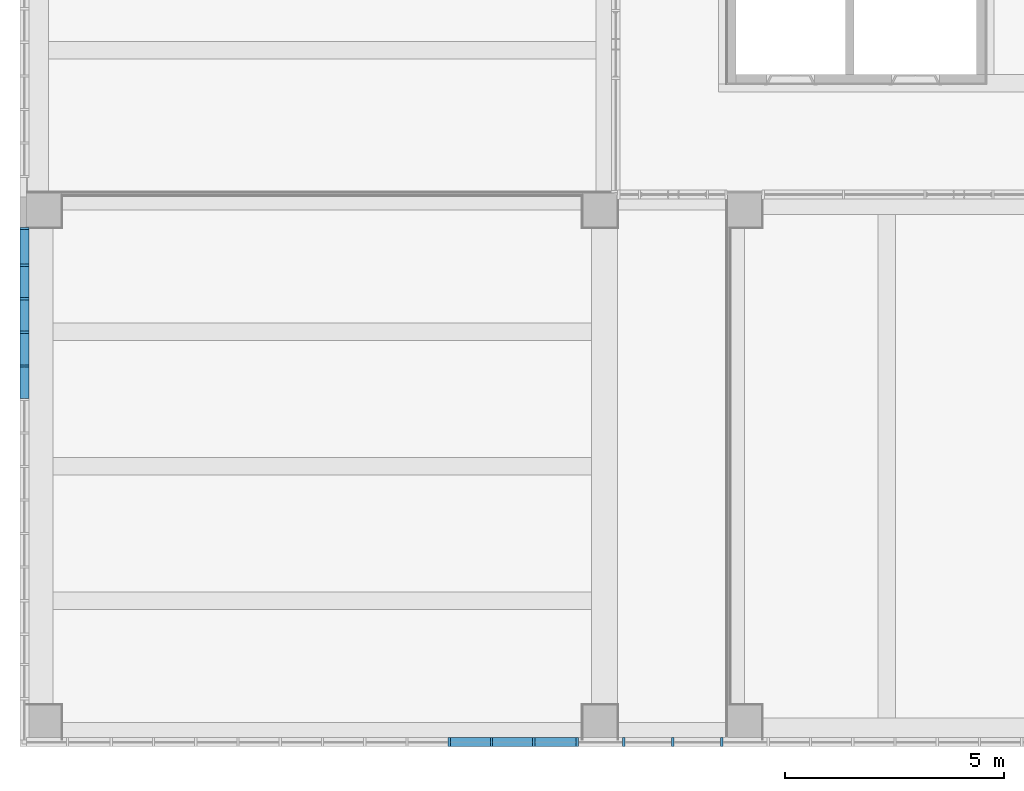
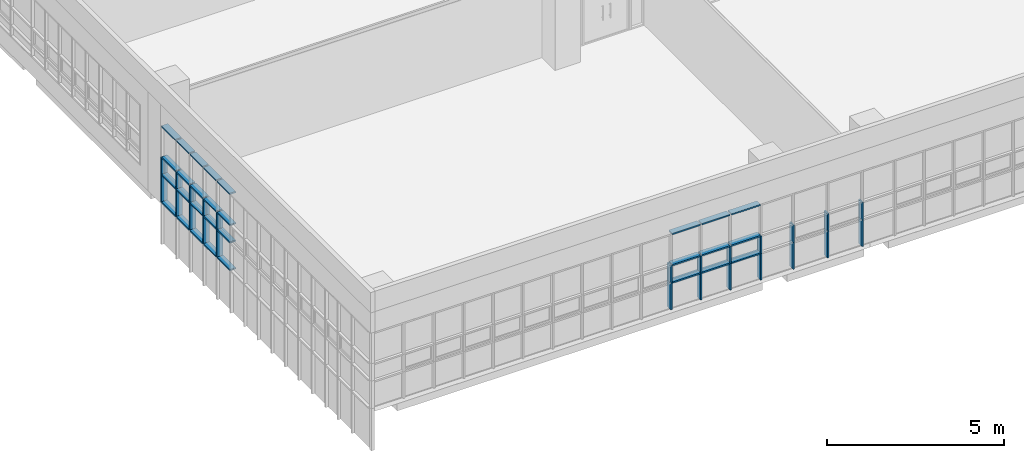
# One storey, part 12 of 81: 53 members, 2 elements without a shape of their own.
"""IFC2X3 building model written with IfcOpenShell, lengths in millimetres."""

from ifc_helpers import new_model, entity, si_unit, converted_unit, derived_unit, direction, frame, origin, origin_2d_with_axis, place, context, subcontext, project, spatial, rectangle, extrude, source, transform, mapped, material, type_object, type_shapes, element, aggregate, save


model = new_model("IFC2X3")

# Units and contexts
model_context = context("Model", 3, precision=0.01, world=origin(), true_north=direction((6.123031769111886e-17, 1.0)))
body_context = subcontext(model_context, "Body", "Model", "MODEL_VIEW")
ifc_project = project(units=[si_unit("LENGTHUNIT", "METRE", prefix="MILLI"), si_unit("AREAUNIT", "SQUARE_METRE"), si_unit("VOLUMEUNIT", "CUBIC_METRE"), converted_unit("PLANEANGLEUNIT", "DEGREE", entity("IfcRatioMeasure", 0.017453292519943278), si_unit("PLANEANGLEUNIT", "RADIAN"), dimensions=[0, 0, 0, 0, 0, 0, 0]), si_unit("MASSUNIT", "GRAM", prefix="KILO"), derived_unit("MASSDENSITYUNIT", [(si_unit("MASSUNIT", "GRAM", prefix="KILO"), 1), (si_unit("LENGTHUNIT", "METRE"), -3)]), derived_unit("MOMENTOFINERTIAUNIT", [(si_unit("LENGTHUNIT", "METRE"), 4)]), si_unit("TIMEUNIT", "SECOND"), si_unit("FREQUENCYUNIT", "HERTZ"), si_unit("THERMODYNAMICTEMPERATUREUNIT", "DEGREE_CELSIUS"), derived_unit("THERMALTRANSMITTANCEUNIT", [(si_unit("MASSUNIT", "GRAM", prefix="KILO"), 1), (si_unit("THERMODYNAMICTEMPERATUREUNIT", "KELVIN"), -1), (si_unit("TIMEUNIT", "SECOND"), -3)]), derived_unit("VOLUMETRICFLOWRATEUNIT", [(si_unit("LENGTHUNIT", "METRE"), 3), (si_unit("TIMEUNIT", "SECOND"), -1)]), derived_unit("MASSFLOWRATEUNIT", [(si_unit("MASSUNIT", "GRAM", prefix="KILO"), 1), (si_unit("TIMEUNIT", "SECOND"), -1)]), derived_unit("ROTATIONALFREQUENCYUNIT", [(si_unit("TIMEUNIT", "SECOND"), -1)]), si_unit("ELECTRICCURRENTUNIT", "AMPERE"), si_unit("ELECTRICVOLTAGEUNIT", "VOLT"), si_unit("POWERUNIT", "WATT"), si_unit("FORCEUNIT", "NEWTON", prefix="KILO"), si_unit("ILLUMINANCEUNIT", "LUX"), si_unit("LUMINOUSFLUXUNIT", "LUMEN"), si_unit("LUMINOUSINTENSITYUNIT", "CANDELA"), derived_unit("USERDEFINED", [(si_unit("MASSUNIT", "GRAM", prefix="KILO"), -1), (si_unit("LENGTHUNIT", "METRE"), -2), (si_unit("TIMEUNIT", "SECOND"), 3), (si_unit("LUMINOUSFLUXUNIT", "LUMEN"), 1)]), derived_unit("SOUNDPOWERUNIT", [(si_unit("MASSUNIT", "GRAM", prefix="KILO"), 1), (si_unit("LENGTHUNIT", "METRE"), 2), (si_unit("TIMEUNIT", "SECOND"), -3)]), derived_unit("SOUNDPRESSUREUNIT", [(si_unit("MASSUNIT", "GRAM", prefix="KILO"), 1), (si_unit("LENGTHUNIT", "METRE"), -1), (si_unit("TIMEUNIT", "SECOND"), -2)]), derived_unit("LINEARVELOCITYUNIT", [(si_unit("LENGTHUNIT", "METRE"), 1), (si_unit("TIMEUNIT", "SECOND"), -1)]), si_unit("PRESSUREUNIT", "PASCAL"), derived_unit("USERDEFINED", [(si_unit("LENGTHUNIT", "METRE"), -2), (si_unit("MASSUNIT", "GRAM", prefix="KILO"), 1), (si_unit("TIMEUNIT", "SECOND"), -2)]), derived_unit("LINEARFORCEUNIT", [(si_unit("MASSUNIT", "GRAM", prefix="KILO"), 1), (si_unit("LENGTHUNIT", "METRE"), 1), (si_unit("TIMEUNIT", "SECOND"), -2), (si_unit("LENGTHUNIT", "METRE"), -1)]), derived_unit("PLANARFORCEUNIT", [(si_unit("MASSUNIT", "GRAM", prefix="KILO"), 1), (si_unit("LENGTHUNIT", "METRE"), 1), (si_unit("TIMEUNIT", "SECOND"), -2), (si_unit("LENGTHUNIT", "METRE"), -2)])], contexts=[model_context])

# Site, building, storey
site_placement = place(None, frame((-14167.972527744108, -657.2125860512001, 0.0)))
site = spatial("IfcSite", under=ifc_project, at=site_placement, Name="Default", CompositionType="ELEMENT")
building_placement = place(site_placement, origin())
building = spatial("IfcBuilding", under=site, at=building_placement, Name="Sample Building", CompositionType="ELEMENT")
storey_placement = place(building_placement, frame((0.0, 0.0, 13400.0)))
storey = spatial("IfcBuildingStorey", under=building, at=storey_placement, Name="지상 4층", CompositionType="ELEMENT", Elevation=13400.00000000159)

# Curtain wall, members
curtain_wall_type = type_object("IfcCurtainWallType", Name="커튼월:CW112-스테인리스 스틸 커튼월", PredefinedType="NOTDEFINED")
curtain_wall_1_placement = place(storey_placement, frame((0.0, 0.0, -13400.0)))
curtain_wall_1 = element("IfcCurtainWall", 1, at=curtain_wall_1_placement, inside=storey, type_object=curtain_wall_type, Name="커튼월:CW112-스테인리스 스틸 커튼월", ObjectType="커튼월:CW112-스테인리스 스틸 커튼월")
ifc_material = material(Name="<Unnamed>")
member_type_1 = type_object("IfcMemberType", Name="직사각형 멀리언:CW200-직사각형 멀리언 50x200mm", PredefinedType="MULLION", material=ifc_material)
shared_shape_1 = source(origin(), body_context, "Body", "SweptSolid", [
    extrude(rectangle(XDim=200.0, YDim=50.0, at=origin_2d_with_axis()), frame((-25.0, 0.0, -600.0), z_axis=(0.0, 0.0, 1.0), x_axis=(0.0, -1.0, 0.0)), (0.0, 0.0, 1.0), 600.0),
])
type_shapes(member_type_1, [shared_shape_1])
member_1_placement = place(curtain_wall_1_placement, frame((14017.955105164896, 12257.21258605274, 15000.0), z_axis=(0.0, 0.0, 1.0), x_axis=(0.0, 1.0, 0.0)))
member_1 = element("IfcMember", 2, at=member_1_placement, type_object=member_type_1, material=ifc_material, Name="직사각형 멀리언:CW200-직사각형 멀리언 50x200mm", ObjectType="직사각형 멀리언:CW200-직사각형 멀리언 50x200mm", context=body_context, shape_type="MappedRepresentation", body=[
    mapped(shared_shape_1, transform((0.0, 0.0, 0.0), scale=1.0)),
])
member_type_2 = type_object("IfcMemberType", Name="직사각형 멀리언:CW200-직사각형 멀리언 50x200mm", PredefinedType="MULLION", material=ifc_material)
shared_shape_2 = source(origin(), body_context, "Body", "SweptSolid", [
    extrude(rectangle(XDim=200.0, YDim=50.0, at=origin_2d_with_axis()), frame((0.0, 0.0, -600.0), z_axis=(0.0, 0.0, 1.0), x_axis=(0.0, -1.0, 0.0)), (0.0, 0.0, 1.0), 600.0),
])
type_shapes(member_type_2, [shared_shape_2])
member_2_placement = place(curtain_wall_1_placement, frame((14017.95510516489, 9097.817707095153, 14400.0), z_axis=(0.0, 0.0, -1.0), x_axis=(0.0, -1.0, 0.0)))
member_2 = element("IfcMember", 3, at=member_2_placement, type_object=member_type_2, material=ifc_material, Name="직사각형 멀리언:CW200-직사각형 멀리언 50x200mm", ObjectType="직사각형 멀리언:CW200-직사각형 멀리언 50x200mm", context=body_context, shape_type="MappedRepresentation", body=[
    mapped(shared_shape_2, transform((0.0, 0.0, 0.0), scale=1.0)),
])
member_3_placement = place(curtain_wall_1_placement, frame((14017.955105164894, 9863.817707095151, 14400.0), z_axis=(0.0, 0.0, -1.0), x_axis=(0.0, -1.0, 0.0)))
member_3 = element("IfcMember", 4, at=member_3_placement, type_object=member_type_2, material=ifc_material, Name="직사각형 멀리언:CW200-직사각형 멀리언 50x200mm", ObjectType="직사각형 멀리언:CW200-직사각형 멀리언 50x200mm", context=body_context, shape_type="MappedRepresentation", body=[
    mapped(shared_shape_2, transform((0.0, 0.0, 0.0), scale=1.0)),
])
member_4_placement = place(curtain_wall_1_placement, frame((14017.955105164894, 10629.817707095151, 14400.0), z_axis=(0.0, 0.0, -1.0), x_axis=(0.0, -1.0, 0.0)))
member_4 = element("IfcMember", 5, at=member_4_placement, type_object=member_type_2, material=ifc_material, Name="직사각형 멀리언:CW200-직사각형 멀리언 50x200mm", ObjectType="직사각형 멀리언:CW200-직사각형 멀리언 50x200mm", context=body_context, shape_type="MappedRepresentation", body=[
    mapped(shared_shape_2, transform((0.0, 0.0, 0.0), scale=1.0)),
])
member_5_placement = place(curtain_wall_1_placement, frame((14017.955105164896, 11395.81770709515, 14400.0), z_axis=(0.0, 0.0, -1.0), x_axis=(0.0, -1.0, 0.0)))
member_5 = element("IfcMember", 6, at=member_5_placement, type_object=member_type_2, material=ifc_material, Name="직사각형 멀리언:CW200-직사각형 멀리언 50x200mm", ObjectType="직사각형 멀리언:CW200-직사각형 멀리언 50x200mm", context=body_context, shape_type="MappedRepresentation", body=[
    mapped(shared_shape_2, transform((0.0, 0.0, 0.0), scale=1.0)),
])

curtain_wall_2_placement = place(storey_placement, frame((0.0, 0.0, -13400.0)))
curtain_wall_2 = element("IfcCurtainWall", 7, at=curtain_wall_2_placement, inside=storey, type_object=curtain_wall_type, Name="커튼월:CW112-스테인리스 스틸 커튼월", ObjectType="커튼월:CW112-스테인리스 스틸 커튼월")
member_6_placement = place(curtain_wall_2_placement, frame((23720.156070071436, 507.21229514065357, 14400.0), z_axis=(0.0, 0.0, -1.0), x_axis=(1.0, 0.0, 0.0)))
member_6 = element("IfcMember", 8, at=member_6_placement, type_object=member_type_2, material=ifc_material, Name="직사각형 멀리언:CW200-직사각형 멀리언 50x200mm", ObjectType="직사각형 멀리언:CW200-직사각형 멀리언 50x200mm", context=body_context, shape_type="MappedRepresentation", body=[
    mapped(shared_shape_2, transform((0.0, 0.0, 0.0), scale=1.0)),
])
member_7_placement = place(curtain_wall_2_placement, frame((24685.15607007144, 507.2122951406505, 14400.0), z_axis=(0.0, 0.0, -1.0), x_axis=(1.0, 0.0, 0.0)))
member_7 = element("IfcMember", 9, at=member_7_placement, type_object=member_type_2, material=ifc_material, Name="직사각형 멀리언:CW200-직사각형 멀리언 50x200mm", ObjectType="직사각형 멀리언:CW200-직사각형 멀리언 50x200mm", context=body_context, shape_type="MappedRepresentation", body=[
    mapped(shared_shape_2, transform((0.0, 0.0, 0.0), scale=1.0)),
])
member_8_placement = place(curtain_wall_2_placement, frame((25650.15607007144, 507.21229514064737, 14400.0), z_axis=(0.0, 0.0, -1.0), x_axis=(1.0, 0.0, 0.0)))
member_8 = element("IfcMember", 10, at=member_8_placement, type_object=member_type_2, material=ifc_material, Name="직사각형 멀리언:CW200-직사각형 멀리언 50x200mm", ObjectType="직사각형 멀리언:CW200-직사각형 멀리언 50x200mm", context=body_context, shape_type="MappedRepresentation", body=[
    mapped(shared_shape_2, transform((0.0, 0.0, 0.0), scale=1.0)),
])
member_9_placement = place(curtain_wall_2_placement, frame((26645.156070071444, 507.2122951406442, 14400.0), z_axis=(0.0, 0.0, -1.0), x_axis=(1.0, 0.0, 0.0)))
member_9 = element("IfcMember", 11, at=member_9_placement, type_object=member_type_2, material=ifc_material, Name="직사각형 멀리언:CW200-직사각형 멀리언 50x200mm", ObjectType="직사각형 멀리언:CW200-직사각형 멀리언 50x200mm", context=body_context, shape_type="MappedRepresentation", body=[
    mapped(shared_shape_2, transform((0.0, 0.0, 0.0), scale=1.0)),
])
member_10_placement = place(curtain_wall_2_placement, frame((27705.15607007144, 507.2122951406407, 14400.0), z_axis=(0.0, 0.0, -1.0), x_axis=(1.0, 0.0, 0.0)))
member_10 = element("IfcMember", 12, at=member_10_placement, type_object=member_type_2, material=ifc_material, Name="직사각형 멀리언:CW200-직사각형 멀리언 50x200mm", ObjectType="직사각형 멀리언:CW200-직사각형 멀리언 50x200mm", context=body_context, shape_type="MappedRepresentation", body=[
    mapped(shared_shape_2, transform((0.0, 0.0, 0.0), scale=1.0)),
])
member_11_placement = place(curtain_wall_2_placement, frame((28825.156070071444, 507.21229514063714, 14400.0), z_axis=(0.0, 0.0, -1.0), x_axis=(1.0, 0.0, 0.0)))
member_11 = element("IfcMember", 13, at=member_11_placement, type_object=member_type_2, material=ifc_material, Name="직사각형 멀리언:CW200-직사각형 멀리언 50x200mm", ObjectType="직사각형 멀리언:CW200-직사각형 멀리언 50x200mm", context=body_context, shape_type="MappedRepresentation", body=[
    mapped(shared_shape_2, transform((0.0, 0.0, 0.0), scale=1.0)),
])
member_12_placement = place(curtain_wall_2_placement, frame((29945.156070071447, 507.2122951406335, 14400.0), z_axis=(0.0, 0.0, -1.0), x_axis=(1.0, 0.0, 0.0)))
member_12 = element("IfcMember", 14, at=member_12_placement, type_object=member_type_2, material=ifc_material, Name="직사각형 멀리언:CW200-직사각형 멀리언 50x200mm", ObjectType="직사각형 멀리언:CW200-직사각형 멀리언 50x200mm", context=body_context, shape_type="MappedRepresentation", body=[
    mapped(shared_shape_2, transform((0.0, 0.0, 0.0), scale=1.0)),
])

# Member
member_type_3 = type_object("IfcMemberType", Name="직사각형 멀리언:CW200-직사각형 멀리언 50x200mm", PredefinedType="MULLION", material=ifc_material)
shared_shape_3 = source(origin(), body_context, "Body", "SweptSolid", [
    extrude(rectangle(XDim=200.0, YDim=50.0, at=origin_2d_with_axis()), frame((0.0, 0.0, -716.0), z_axis=(0.0, 0.0, 1.0), x_axis=(0.0, -1.0, 0.0)), (0.0, 0.0, 1.0), 715.9999999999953),
])
type_shapes(member_type_3, [shared_shape_3])
member_13_placement = place(curtain_wall_1_placement, frame((14017.955105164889, 8356.817707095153, 13450.0), z_axis=(0.0, -1.0, 0.0), x_axis=(0.0, 0.0, 1.0)))
member_13 = element("IfcMember", 15, at=member_13_placement, type_object=member_type_3, material=ifc_material, Name="직사각형 멀리언:CW200-직사각형 멀리언 50x200mm", ObjectType="직사각형 멀리언:CW200-직사각형 멀리언 50x200mm", context=body_context, shape_type="MappedRepresentation", body=[
    mapped(shared_shape_3, transform((0.0, 0.0, 0.0), scale=1.0)),
])

member_14_placement = place(curtain_wall_1_placement, frame((14017.955105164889, 8356.817707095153, 14400.0), z_axis=(0.0, -1.0, 0.0), x_axis=(0.0, 0.0, 1.0)))
member_14 = element("IfcMember", 16, at=member_14_placement, type_object=member_type_3, material=ifc_material, Name="직사각형 멀리언:CW200-직사각형 멀리언 50x200mm", ObjectType="직사각형 멀리언:CW200-직사각형 멀리언 50x200mm", context=body_context, shape_type="MappedRepresentation", body=[
    mapped(shared_shape_3, transform((0.0, 0.0, 0.0), scale=1.0)),
])

member_15_placement = place(curtain_wall_1_placement, frame((14017.955105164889, 8356.817707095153, 15000.0), z_axis=(0.0, -1.0, 0.0), x_axis=(0.0, 0.0, 1.0)))
member_15 = element("IfcMember", 17, at=member_15_placement, type_object=member_type_3, material=ifc_material, Name="직사각형 멀리언:CW200-직사각형 멀리언 50x200mm", ObjectType="직사각형 멀리언:CW200-직사각형 멀리언 50x200mm", context=body_context, shape_type="MappedRepresentation", body=[
    mapped(shared_shape_3, transform((0.0, 0.0, 0.0), scale=1.0)),
])

member_16_placement = place(curtain_wall_1_placement, frame((14017.95510516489, 9122.817707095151, 13450.0), z_axis=(0.0, -1.0, 0.0), x_axis=(0.0, 0.0, 1.0)))
member_16 = element("IfcMember", 18, at=member_16_placement, type_object=member_type_3, material=ifc_material, Name="직사각형 멀리언:CW200-직사각형 멀리언 50x200mm", ObjectType="직사각형 멀리언:CW200-직사각형 멀리언 50x200mm", context=body_context, shape_type="MappedRepresentation", body=[
    mapped(shared_shape_3, transform((0.0, 0.0, 0.0), scale=1.0)),
])

member_17_placement = place(curtain_wall_1_placement, frame((14017.95510516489, 9122.817707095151, 14400.0), z_axis=(0.0, -1.0, 0.0), x_axis=(0.0, 0.0, 1.0)))
member_17 = element("IfcMember", 19, at=member_17_placement, type_object=member_type_3, material=ifc_material, Name="직사각형 멀리언:CW200-직사각형 멀리언 50x200mm", ObjectType="직사각형 멀리언:CW200-직사각형 멀리언 50x200mm", context=body_context, shape_type="MappedRepresentation", body=[
    mapped(shared_shape_3, transform((0.0, 0.0, 0.0), scale=1.0)),
])

member_18_placement = place(curtain_wall_1_placement, frame((14017.95510516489, 9122.817707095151, 15000.0), z_axis=(0.0, -1.0, 0.0), x_axis=(0.0, 0.0, 1.0)))
member_18 = element("IfcMember", 20, at=member_18_placement, type_object=member_type_3, material=ifc_material, Name="직사각형 멀리언:CW200-직사각형 멀리언 50x200mm", ObjectType="직사각형 멀리언:CW200-직사각형 멀리언 50x200mm", context=body_context, shape_type="MappedRepresentation", body=[
    mapped(shared_shape_3, transform((0.0, 0.0, 0.0), scale=1.0)),
])

member_19_placement = place(curtain_wall_1_placement, frame((14017.955105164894, 9888.817707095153, 13450.0), z_axis=(0.0, -1.0, 0.0), x_axis=(0.0, 0.0, 1.0)))
member_19 = element("IfcMember", 21, at=member_19_placement, type_object=member_type_3, material=ifc_material, Name="직사각형 멀리언:CW200-직사각형 멀리언 50x200mm", ObjectType="직사각형 멀리언:CW200-직사각형 멀리언 50x200mm", context=body_context, shape_type="MappedRepresentation", body=[
    mapped(shared_shape_3, transform((0.0, 0.0, 0.0), scale=1.0)),
])

member_20_placement = place(curtain_wall_1_placement, frame((14017.955105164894, 9888.817707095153, 14400.0), z_axis=(0.0, -1.0, 0.0), x_axis=(0.0, 0.0, 1.0)))
member_20 = element("IfcMember", 22, at=member_20_placement, type_object=member_type_3, material=ifc_material, Name="직사각형 멀리언:CW200-직사각형 멀리언 50x200mm", ObjectType="직사각형 멀리언:CW200-직사각형 멀리언 50x200mm", context=body_context, shape_type="MappedRepresentation", body=[
    mapped(shared_shape_3, transform((0.0, 0.0, 0.0), scale=1.0)),
])

member_21_placement = place(curtain_wall_1_placement, frame((14017.955105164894, 9888.817707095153, 15000.0), z_axis=(0.0, -1.0, 0.0), x_axis=(0.0, 0.0, 1.0)))
member_21 = element("IfcMember", 23, at=member_21_placement, type_object=member_type_3, material=ifc_material, Name="직사각형 멀리언:CW200-직사각형 멀리언 50x200mm", ObjectType="직사각형 멀리언:CW200-직사각형 멀리언 50x200mm", context=body_context, shape_type="MappedRepresentation", body=[
    mapped(shared_shape_3, transform((0.0, 0.0, 0.0), scale=1.0)),
])

member_22_placement = place(curtain_wall_1_placement, frame((14017.955105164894, 10654.817707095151, 13450.0), z_axis=(0.0, -1.0, 0.0), x_axis=(0.0, 0.0, 1.0)))
member_22 = element("IfcMember", 24, at=member_22_placement, type_object=member_type_3, material=ifc_material, Name="직사각형 멀리언:CW200-직사각형 멀리언 50x200mm", ObjectType="직사각형 멀리언:CW200-직사각형 멀리언 50x200mm", context=body_context, shape_type="MappedRepresentation", body=[
    mapped(shared_shape_3, transform((0.0, 0.0, 0.0), scale=1.0)),
])

member_23_placement = place(curtain_wall_1_placement, frame((14017.955105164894, 10654.817707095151, 14400.0), z_axis=(0.0, -1.0, 0.0), x_axis=(0.0, 0.0, 1.0)))
member_23 = element("IfcMember", 25, at=member_23_placement, type_object=member_type_3, material=ifc_material, Name="직사각형 멀리언:CW200-직사각형 멀리언 50x200mm", ObjectType="직사각형 멀리언:CW200-직사각형 멀리언 50x200mm", context=body_context, shape_type="MappedRepresentation", body=[
    mapped(shared_shape_3, transform((0.0, 0.0, 0.0), scale=1.0)),
])

member_24_placement = place(curtain_wall_1_placement, frame((14017.955105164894, 10654.817707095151, 15000.0), z_axis=(0.0, -1.0, 0.0), x_axis=(0.0, 0.0, 1.0)))
member_24 = element("IfcMember", 26, at=member_24_placement, type_object=member_type_3, material=ifc_material, Name="직사각형 멀리언:CW200-직사각형 멀리언 50x200mm", ObjectType="직사각형 멀리언:CW200-직사각형 멀리언 50x200mm", context=body_context, shape_type="MappedRepresentation", body=[
    mapped(shared_shape_3, transform((0.0, 0.0, 0.0), scale=1.0)),
])

member_type_4 = type_object("IfcMemberType", Name="직사각형 멀리언:CW200-직사각형 멀리언 50x200mm", PredefinedType="MULLION", material=ifc_material)
shared_shape_4 = source(origin(), body_context, "Body", "SweptSolid", [
    extrude(rectangle(XDim=200.0, YDim=50.0, at=origin_2d_with_axis()), frame((-25.0, 0.0, -716.0), z_axis=(0.0, 0.0, 1.0), x_axis=(0.0, -1.0, 0.0)), (0.0, 0.0, 1.0), 715.9999999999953),
])
type_shapes(member_type_4, [shared_shape_4])
member_25_placement = place(curtain_wall_1_placement, frame((14017.955105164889, 8356.817707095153, 16100.0), z_axis=(0.0, -1.0, 0.0), x_axis=(0.0, 0.0, 1.0)))
member_25 = element("IfcMember", 27, at=member_25_placement, type_object=member_type_4, material=ifc_material, Name="직사각형 멀리언:CW200-직사각형 멀리언 50x200mm", ObjectType="직사각형 멀리언:CW200-직사각형 멀리언 50x200mm", context=body_context, shape_type="MappedRepresentation", body=[
    mapped(shared_shape_4, transform((0.0, 0.0, 0.0), scale=1.0)),
])

member_26_placement = place(curtain_wall_1_placement, frame((14017.95510516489, 9122.817707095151, 16100.0), z_axis=(0.0, -1.0, 0.0), x_axis=(0.0, 0.0, 1.0)))
member_26 = element("IfcMember", 28, at=member_26_placement, type_object=member_type_4, material=ifc_material, Name="직사각형 멀리언:CW200-직사각형 멀리언 50x200mm", ObjectType="직사각형 멀리언:CW200-직사각형 멀리언 50x200mm", context=body_context, shape_type="MappedRepresentation", body=[
    mapped(shared_shape_4, transform((0.0, 0.0, 0.0), scale=1.0)),
])

member_27_placement = place(curtain_wall_1_placement, frame((14017.955105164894, 9888.817707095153, 16100.0), z_axis=(0.0, -1.0, 0.0), x_axis=(0.0, 0.0, 1.0)))
member_27 = element("IfcMember", 29, at=member_27_placement, type_object=member_type_4, material=ifc_material, Name="직사각형 멀리언:CW200-직사각형 멀리언 50x200mm", ObjectType="직사각형 멀리언:CW200-직사각형 멀리언 50x200mm", context=body_context, shape_type="MappedRepresentation", body=[
    mapped(shared_shape_4, transform((0.0, 0.0, 0.0), scale=1.0)),
])

member_28_placement = place(curtain_wall_1_placement, frame((14017.955105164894, 10654.817707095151, 16100.0), z_axis=(0.0, -1.0, 0.0), x_axis=(0.0, 0.0, 1.0)))
member_28 = element("IfcMember", 30, at=member_28_placement, type_object=member_type_4, material=ifc_material, Name="직사각형 멀리언:CW200-직사각형 멀리언 50x200mm", ObjectType="직사각형 멀리언:CW200-직사각형 멀리언 50x200mm", context=body_context, shape_type="MappedRepresentation", body=[
    mapped(shared_shape_4, transform((0.0, 0.0, 0.0), scale=1.0)),
])

member_type_5 = type_object("IfcMemberType", Name="직사각형 멀리언:CW200-직사각형 멀리언 50x200mm", PredefinedType="MULLION", material=ifc_material)
shared_shape_5 = source(origin(), body_context, "Body", "SweptSolid", [
    extrude(rectangle(XDim=200.0, YDim=50.0, at=origin_2d_with_axis()), frame((-25.0, 0.0, -950.0), z_axis=(0.0, 0.0, 1.0), x_axis=(0.0, -1.0, 0.0)), (0.0, 0.0, 1.0), 949.9999999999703),
])
type_shapes(member_type_5, [shared_shape_5])
member_29_placement = place(curtain_wall_1_placement, frame((14017.955105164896, 12257.21258605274, 14400.0), z_axis=(0.0, 0.0, 1.0), x_axis=(0.0, 1.0, 0.0)))
member_29 = element("IfcMember", 31, at=member_29_placement, type_object=member_type_5, material=ifc_material, Name="직사각형 멀리언:CW200-직사각형 멀리언 50x200mm", ObjectType="직사각형 멀리언:CW200-직사각형 멀리언 50x200mm", context=body_context, shape_type="MappedRepresentation", body=[
    mapped(shared_shape_5, transform((0.0, 0.0, 0.0), scale=1.0)),
])

member_type_6 = type_object("IfcMemberType", Name="직사각형 멀리언:CW200-직사각형 멀리언 50x200mm", PredefinedType="MULLION", material=ifc_material)
shared_shape_6 = source(origin(), body_context, "Body", "SweptSolid", [
    extrude(rectangle(XDim=200.0, YDim=50.0, at=origin_2d_with_axis()), frame((0.0, 0.0, -786.3945880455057), z_axis=(0.0, 0.0, 1.0), x_axis=(0.0, -1.0, 0.0)), (0.0, 0.0, 1.0), 786.3945880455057),
])
type_shapes(member_type_6, [shared_shape_6])
member_30_placement = place(curtain_wall_1_placement, frame((14017.955105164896, 11420.817707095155, 15000.0), z_axis=(0.0, -1.0, 0.0), x_axis=(0.0, 0.0, 1.0)))
member_30 = element("IfcMember", 32, at=member_30_placement, type_object=member_type_6, material=ifc_material, Name="직사각형 멀리언:CW200-직사각형 멀리언 50x200mm", ObjectType="직사각형 멀리언:CW200-직사각형 멀리언 50x200mm", context=body_context, shape_type="MappedRepresentation", body=[
    mapped(shared_shape_6, transform((0.0, 0.0, 0.0), scale=1.0)),
])

member_31_placement = place(curtain_wall_1_placement, frame((14017.955105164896, 11420.817707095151, 14400.0), z_axis=(0.0, -1.0, 0.0), x_axis=(0.0, 0.0, 1.0)))
member_31 = element("IfcMember", 33, at=member_31_placement, type_object=member_type_6, material=ifc_material, Name="직사각형 멀리언:CW200-직사각형 멀리언 50x200mm", ObjectType="직사각형 멀리언:CW200-직사각형 멀리언 50x200mm", context=body_context, shape_type="MappedRepresentation", body=[
    mapped(shared_shape_6, transform((0.0, 0.0, 0.0), scale=1.0)),
])

member_32_placement = place(curtain_wall_1_placement, frame((14017.955105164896, 11420.817707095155, 13450.0), z_axis=(0.0, -1.0, 0.0), x_axis=(0.0, 0.0, 1.0)))
member_32 = element("IfcMember", 34, at=member_32_placement, type_object=member_type_6, material=ifc_material, Name="직사각형 멀리언:CW200-직사각형 멀리언 50x200mm", ObjectType="직사각형 멀리언:CW200-직사각형 멀리언 50x200mm", context=body_context, shape_type="MappedRepresentation", body=[
    mapped(shared_shape_6, transform((0.0, 0.0, 0.0), scale=1.0)),
])

member_type_7 = type_object("IfcMemberType", Name="직사각형 멀리언:CW200-직사각형 멀리언 50x200mm", PredefinedType="MULLION", material=ifc_material)
shared_shape_7 = source(origin(), body_context, "Body", "SweptSolid", [
    extrude(rectangle(XDim=200.0, YDim=50.0, at=origin_2d_with_axis()), frame((0.0, 0.0, -950.0), z_axis=(0.0, 0.0, 1.0), x_axis=(0.0, -1.0, 0.0)), (0.0, 0.0, 1.0), 949.9999999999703),
])
type_shapes(member_type_7, [shared_shape_7])
member_33_placement = place(curtain_wall_1_placement, frame((14017.95510516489, 9097.817707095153, 13450.0), z_axis=(0.0, 0.0, -1.0), x_axis=(0.0, -1.0, 0.0)))
member_33 = element("IfcMember", 35, at=member_33_placement, type_object=member_type_7, material=ifc_material, Name="직사각형 멀리언:CW200-직사각형 멀리언 50x200mm", ObjectType="직사각형 멀리언:CW200-직사각형 멀리언 50x200mm", context=body_context, shape_type="MappedRepresentation", body=[
    mapped(shared_shape_7, transform((0.0, 0.0, 0.0), scale=1.0)),
])

member_34_placement = place(curtain_wall_1_placement, frame((14017.955105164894, 9863.817707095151, 13450.0), z_axis=(0.0, 0.0, -1.0), x_axis=(0.0, -1.0, 0.0)))
member_34 = element("IfcMember", 36, at=member_34_placement, type_object=member_type_7, material=ifc_material, Name="직사각형 멀리언:CW200-직사각형 멀리언 50x200mm", ObjectType="직사각형 멀리언:CW200-직사각형 멀리언 50x200mm", context=body_context, shape_type="MappedRepresentation", body=[
    mapped(shared_shape_7, transform((0.0, 0.0, 0.0), scale=1.0)),
])

member_35_placement = place(curtain_wall_1_placement, frame((14017.955105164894, 10629.817707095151, 13450.0), z_axis=(0.0, 0.0, -1.0), x_axis=(0.0, -1.0, 0.0)))
member_35 = element("IfcMember", 37, at=member_35_placement, type_object=member_type_7, material=ifc_material, Name="직사각형 멀리언:CW200-직사각형 멀리언 50x200mm", ObjectType="직사각형 멀리언:CW200-직사각형 멀리언 50x200mm", context=body_context, shape_type="MappedRepresentation", body=[
    mapped(shared_shape_7, transform((0.0, 0.0, 0.0), scale=1.0)),
])

member_36_placement = place(curtain_wall_1_placement, frame((14017.955105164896, 11395.817707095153, 13450.0), z_axis=(0.0, 0.0, -1.0), x_axis=(0.0, -1.0, 0.0)))
member_36 = element("IfcMember", 38, at=member_36_placement, type_object=member_type_7, material=ifc_material, Name="직사각형 멀리언:CW200-직사각형 멀리언 50x200mm", ObjectType="직사각형 멀리언:CW200-직사각형 멀리언 50x200mm", context=body_context, shape_type="MappedRepresentation", body=[
    mapped(shared_shape_7, transform((0.0, 0.0, 0.0), scale=1.0)),
])

member_type_8 = type_object("IfcMemberType", Name="직사각형 멀리언:CW200-직사각형 멀리언 50x200mm", PredefinedType="MULLION", material=ifc_material)
shared_shape_8 = source(origin(), body_context, "Body", "SweptSolid", [
    extrude(rectangle(XDim=200.0, YDim=50.0, at=origin_2d_with_axis()), frame((-25.0, 0.0, -786.39458804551), z_axis=(0.0, 0.0, 1.0), x_axis=(0.0, -1.0, 0.0)), (0.0, 0.0, 1.0), 786.39458804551),
])
type_shapes(member_type_8, [shared_shape_8])
member_37_placement = place(curtain_wall_1_placement, frame((14017.955105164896, 11420.817707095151, 16100.0), z_axis=(0.0, -1.0, 0.0), x_axis=(0.0, 0.0, 1.0)))
member_37 = element("IfcMember", 39, at=member_37_placement, type_object=member_type_8, material=ifc_material, Name="직사각형 멀리언:CW200-직사각형 멀리언 50x200mm", ObjectType="직사각형 멀리언:CW200-직사각형 멀리언 50x200mm", context=body_context, shape_type="MappedRepresentation", body=[
    mapped(shared_shape_8, transform((0.0, 0.0, 0.0), scale=1.0)),
])

aggregate(curtain_wall_1, [member_1, member_29, member_30, member_31, member_32, member_25, member_26, member_13, member_14, member_15, member_33, member_2, member_27, member_16, member_17, member_18, member_34, member_3, member_28, member_19, member_20, member_21, member_35, member_4, member_37, member_22, member_23, member_24, member_36, member_5])

member_type_9 = type_object("IfcMemberType", Name="직사각형 멀리언:CW200-직사각형 멀리언 50x200mm", PredefinedType="MULLION", material=ifc_material)
shared_shape_9 = source(origin(), body_context, "Body", "SweptSolid", [
    extrude(rectangle(XDim=200.0, YDim=50.0, at=origin_2d_with_axis()), frame((0.0, 0.0, -945.0), z_axis=(0.0, 0.0, 1.0), x_axis=(0.0, -1.0, 0.0)), (0.0, 0.0, 1.0), 944.9999999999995),
])
type_shapes(member_type_9, [shared_shape_9])
member_38_placement = place(curtain_wall_2_placement, frame((26620.156070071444, 507.21229514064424, 14400.0), z_axis=(1.0, 0.0, 0.0), x_axis=(0.0, 0.0, 1.0)))
member_38 = element("IfcMember", 40, at=member_38_placement, type_object=member_type_9, material=ifc_material, Name="직사각형 멀리언:CW200-직사각형 멀리언 50x200mm", ObjectType="직사각형 멀리언:CW200-직사각형 멀리언 50x200mm", context=body_context, shape_type="MappedRepresentation", body=[
    mapped(shared_shape_9, transform((0.0, 0.0, 0.0), scale=1.0)),
])

member_39_placement = place(curtain_wall_2_placement, frame((26620.15607007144, 507.21229514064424, 15000.0), z_axis=(1.0, 0.0, 0.0), x_axis=(0.0, 0.0, 1.0)))
member_39 = element("IfcMember", 41, at=member_39_placement, type_object=member_type_9, material=ifc_material, Name="직사각형 멀리언:CW200-직사각형 멀리언 50x200mm", ObjectType="직사각형 멀리언:CW200-직사각형 멀리언 50x200mm", context=body_context, shape_type="MappedRepresentation", body=[
    mapped(shared_shape_9, transform((0.0, 0.0, 0.0), scale=1.0)),
])

member_type_10 = type_object("IfcMemberType", Name="직사각형 멀리언:CW200-직사각형 멀리언 50x200mm", PredefinedType="MULLION", material=ifc_material)
shared_shape_10 = source(origin(), body_context, "Body", "SweptSolid", [
    extrude(rectangle(XDim=200.0, YDim=50.0, at=origin_2d_with_axis()), frame((-25.0, 0.0, -945.0), z_axis=(0.0, 0.0, 1.0), x_axis=(0.0, -1.0, 0.0)), (0.0, 0.0, 1.0), 945.000000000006),
])
type_shapes(member_type_10, [shared_shape_10])
member_40_placement = place(curtain_wall_2_placement, frame((26620.15607007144, 507.21229514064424, 16100.0), z_axis=(1.0, 0.0, 0.0), x_axis=(0.0, 0.0, 1.0)))
member_40 = element("IfcMember", 42, at=member_40_placement, type_object=member_type_10, material=ifc_material, Name="직사각형 멀리언:CW200-직사각형 멀리언 50x200mm", ObjectType="직사각형 멀리언:CW200-직사각형 멀리언 50x200mm", context=body_context, shape_type="MappedRepresentation", body=[
    mapped(shared_shape_10, transform((0.0, 0.0, 0.0), scale=1.0)),
])

member_type_11 = type_object("IfcMemberType", Name="직사각형 멀리언:CW200-직사각형 멀리언 50x200mm", PredefinedType="MULLION", material=ifc_material)
shared_shape_11 = source(origin(), body_context, "Body", "SweptSolid", [
    extrude(rectangle(XDim=200.0, YDim=50.0, at=origin_2d_with_axis()), frame((0.0, 0.0, -915.0), z_axis=(0.0, 0.0, 1.0), x_axis=(0.0, -1.0, 0.0)), (0.0, 0.0, 1.0), 915.000000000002),
])
type_shapes(member_type_11, [shared_shape_11])
member_41_placement = place(curtain_wall_2_placement, frame((24660.15607007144, 507.21229514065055, 14400.0), z_axis=(1.0, 0.0, 0.0), x_axis=(0.0, 0.0, 1.0)))
member_41 = element("IfcMember", 43, at=member_41_placement, type_object=member_type_11, material=ifc_material, Name="직사각형 멀리언:CW200-직사각형 멀리언 50x200mm", ObjectType="직사각형 멀리언:CW200-직사각형 멀리언 50x200mm", context=body_context, shape_type="MappedRepresentation", body=[
    mapped(shared_shape_11, transform((0.0, 0.0, 0.0), scale=1.0)),
])

member_42_placement = place(curtain_wall_2_placement, frame((24660.15607007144, 507.21229514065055, 15000.0), z_axis=(1.0, 0.0, 0.0), x_axis=(0.0, 0.0, 1.0)))
member_42 = element("IfcMember", 44, at=member_42_placement, type_object=member_type_11, material=ifc_material, Name="직사각형 멀리언:CW200-직사각형 멀리언 50x200mm", ObjectType="직사각형 멀리언:CW200-직사각형 멀리언 50x200mm", context=body_context, shape_type="MappedRepresentation", body=[
    mapped(shared_shape_11, transform((0.0, 0.0, 0.0), scale=1.0)),
])

member_43_placement = place(curtain_wall_2_placement, frame((25625.156070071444, 507.2122951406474, 14400.0), z_axis=(1.0, 0.0, 0.0), x_axis=(0.0, 0.0, 1.0)))
member_43 = element("IfcMember", 45, at=member_43_placement, type_object=member_type_11, material=ifc_material, Name="직사각형 멀리언:CW200-직사각형 멀리언 50x200mm", ObjectType="직사각형 멀리언:CW200-직사각형 멀리언 50x200mm", context=body_context, shape_type="MappedRepresentation", body=[
    mapped(shared_shape_11, transform((0.0, 0.0, 0.0), scale=1.0)),
])

member_44_placement = place(curtain_wall_2_placement, frame((25625.156070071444, 507.2122951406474, 15000.0), z_axis=(1.0, 0.0, 0.0), x_axis=(0.0, 0.0, 1.0)))
member_44 = element("IfcMember", 46, at=member_44_placement, type_object=member_type_11, material=ifc_material, Name="직사각형 멀리언:CW200-직사각형 멀리언 50x200mm", ObjectType="직사각형 멀리언:CW200-직사각형 멀리언 50x200mm", context=body_context, shape_type="MappedRepresentation", body=[
    mapped(shared_shape_11, transform((0.0, 0.0, 0.0), scale=1.0)),
])

member_type_12 = type_object("IfcMemberType", Name="직사각형 멀리언:CW200-직사각형 멀리언 50x200mm", PredefinedType="MULLION", material=ifc_material)
shared_shape_12 = source(origin(), body_context, "Body", "SweptSolid", [
    extrude(rectangle(XDim=200.0, YDim=50.0, at=origin_2d_with_axis()), frame((-25.0, 0.0, -915.0), z_axis=(0.0, 0.0, 1.0), x_axis=(0.0, -1.0, 0.0)), (0.0, 0.0, 1.0), 914.9999999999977),
])
type_shapes(member_type_12, [shared_shape_12])
member_45_placement = place(curtain_wall_2_placement, frame((24660.15607007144, 507.21229514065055, 16100.0), z_axis=(1.0, 0.0, 0.0), x_axis=(0.0, 0.0, 1.0)))
member_45 = element("IfcMember", 47, at=member_45_placement, type_object=member_type_12, material=ifc_material, Name="직사각형 멀리언:CW200-직사각형 멀리언 50x200mm", ObjectType="직사각형 멀리언:CW200-직사각형 멀리언 50x200mm", context=body_context, shape_type="MappedRepresentation", body=[
    mapped(shared_shape_12, transform((0.0, 0.0, 0.0), scale=1.0)),
])

member_46_placement = place(curtain_wall_2_placement, frame((25625.156070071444, 507.2122951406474, 16100.0), z_axis=(1.0, 0.0, 0.0), x_axis=(0.0, 0.0, 1.0)))
member_46 = element("IfcMember", 48, at=member_46_placement, type_object=member_type_12, material=ifc_material, Name="직사각형 멀리언:CW200-직사각형 멀리언 50x200mm", ObjectType="직사각형 멀리언:CW200-직사각형 멀리언 50x200mm", context=body_context, shape_type="MappedRepresentation", body=[
    mapped(shared_shape_12, transform((0.0, 0.0, 0.0), scale=1.0)),
])

member_type_13 = type_object("IfcMemberType", Name="직사각형 멀리언:CW200-직사각형 멀리언 50x200mm", PredefinedType="MULLION", material=ifc_material)
shared_shape_13 = source(origin(), body_context, "Body", "SweptSolid", [
    extrude(rectangle(XDim=200.0, YDim=50.0, at=origin_2d_with_axis()), frame((0.0, 0.0, -920.0), z_axis=(0.0, 0.0, 1.0), x_axis=(0.0, -1.0, 0.0)), (0.0, 0.0, 1.0), 919.9999999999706),
])
type_shapes(member_type_13, [shared_shape_13])
member_47_placement = place(curtain_wall_2_placement, frame((23720.156070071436, 507.21229514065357, 13480.0), z_axis=(0.0, 0.0, -1.0), x_axis=(1.0, 0.0, 0.0)))
member_47 = element("IfcMember", 49, at=member_47_placement, type_object=member_type_13, material=ifc_material, Name="직사각형 멀리언:CW200-직사각형 멀리언 50x200mm", ObjectType="직사각형 멀리언:CW200-직사각형 멀리언 50x200mm", context=body_context, shape_type="MappedRepresentation", body=[
    mapped(shared_shape_13, transform((0.0, 0.0, 0.0), scale=1.0)),
])

member_48_placement = place(curtain_wall_2_placement, frame((24685.15607007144, 507.2122951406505, 13480.0), z_axis=(0.0, 0.0, -1.0), x_axis=(1.0, 0.0, 0.0)))
member_48 = element("IfcMember", 50, at=member_48_placement, type_object=member_type_13, material=ifc_material, Name="직사각형 멀리언:CW200-직사각형 멀리언 50x200mm", ObjectType="직사각형 멀리언:CW200-직사각형 멀리언 50x200mm", context=body_context, shape_type="MappedRepresentation", body=[
    mapped(shared_shape_13, transform((0.0, 0.0, 0.0), scale=1.0)),
])

member_49_placement = place(curtain_wall_2_placement, frame((25650.156070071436, 507.21229514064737, 13480.0), z_axis=(0.0, 0.0, -1.0), x_axis=(1.0, 0.0, 0.0)))
member_49 = element("IfcMember", 51, at=member_49_placement, type_object=member_type_13, material=ifc_material, Name="직사각형 멀리언:CW200-직사각형 멀리언 50x200mm", ObjectType="직사각형 멀리언:CW200-직사각형 멀리언 50x200mm", context=body_context, shape_type="MappedRepresentation", body=[
    mapped(shared_shape_13, transform((0.0, 0.0, 0.0), scale=1.0)),
])

member_50_placement = place(curtain_wall_2_placement, frame((26645.156070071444, 507.2122951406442, 13480.0), z_axis=(0.0, 0.0, -1.0), x_axis=(1.0, 0.0, 0.0)))
member_50 = element("IfcMember", 52, at=member_50_placement, type_object=member_type_13, material=ifc_material, Name="직사각형 멀리언:CW200-직사각형 멀리언 50x200mm", ObjectType="직사각형 멀리언:CW200-직사각형 멀리언 50x200mm", context=body_context, shape_type="MappedRepresentation", body=[
    mapped(shared_shape_13, transform((0.0, 0.0, 0.0), scale=1.0)),
])

member_51_placement = place(curtain_wall_2_placement, frame((27705.156070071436, 507.2122951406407, 13480.0), z_axis=(0.0, 0.0, -1.0), x_axis=(1.0, 0.0, 0.0)))
member_51 = element("IfcMember", 53, at=member_51_placement, type_object=member_type_13, material=ifc_material, Name="직사각형 멀리언:CW200-직사각형 멀리언 50x200mm", ObjectType="직사각형 멀리언:CW200-직사각형 멀리언 50x200mm", context=body_context, shape_type="MappedRepresentation", body=[
    mapped(shared_shape_13, transform((0.0, 0.0, 0.0), scale=1.0)),
])

member_52_placement = place(curtain_wall_2_placement, frame((28825.156070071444, 507.21229514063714, 13480.0), z_axis=(0.0, 0.0, -1.0), x_axis=(1.0, 0.0, 0.0)))
member_52 = element("IfcMember", 54, at=member_52_placement, type_object=member_type_13, material=ifc_material, Name="직사각형 멀리언:CW200-직사각형 멀리언 50x200mm", ObjectType="직사각형 멀리언:CW200-직사각형 멀리언 50x200mm", context=body_context, shape_type="MappedRepresentation", body=[
    mapped(shared_shape_13, transform((0.0, 0.0, 0.0), scale=1.0)),
])

member_53_placement = place(curtain_wall_2_placement, frame((29945.156070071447, 507.2122951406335, 13480.0), z_axis=(0.0, 0.0, -1.0), x_axis=(1.0, 0.0, 0.0)))
member_53 = element("IfcMember", 55, at=member_53_placement, type_object=member_type_13, material=ifc_material, Name="직사각형 멀리언:CW200-직사각형 멀리언 50x200mm", ObjectType="직사각형 멀리언:CW200-직사각형 멀리언 50x200mm", context=body_context, shape_type="MappedRepresentation", body=[
    mapped(shared_shape_13, transform((0.0, 0.0, 0.0), scale=1.0)),
])

aggregate(curtain_wall_2, [member_41, member_42, member_47, member_6, member_45, member_43, member_44, member_48, member_7, member_46, member_38, member_39, member_49, member_8, member_40, member_50, member_9, member_51, member_52, member_53, member_10, member_11, member_12])

save(model, "model.ifc")
